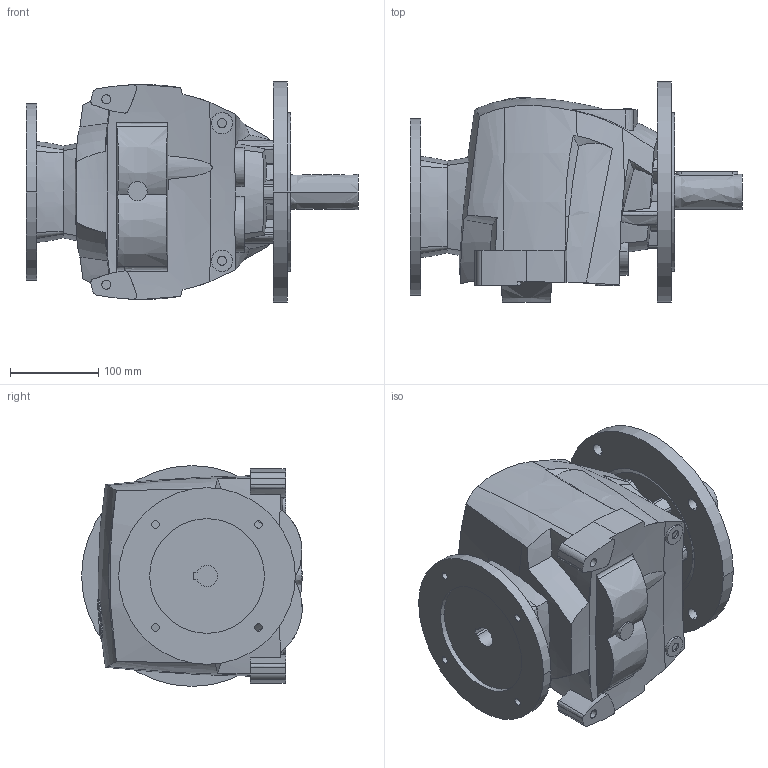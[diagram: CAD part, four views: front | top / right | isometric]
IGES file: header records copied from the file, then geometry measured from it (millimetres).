
Start section:  PTC IGES file: r35_250_pam90_d2.igs
Global section: file name: r35_250_pam90_d2.igs; native system: Pro/ENGINEER by Parametric Technology Corporation; preprocessor: 2008230; author: Luca; organization: Unknown; date: 20131126.095819; units: millimetre
Bounding box: 376.06 x 250 x 250 mm (x, y, z)
Volume: 9566545.5 mm3; surface area: 444013.6 mm2
Topology: 1 solids, 15 shells, 463 faces, 1210 edges, 813 vertices
Faces by surface type: revolution 207, bspline 164, extrusion 92
